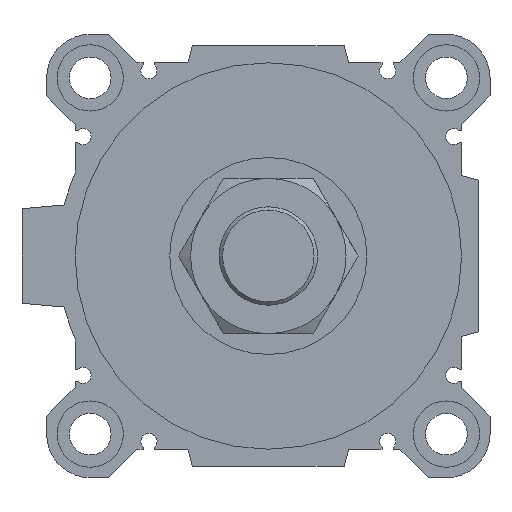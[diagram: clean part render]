
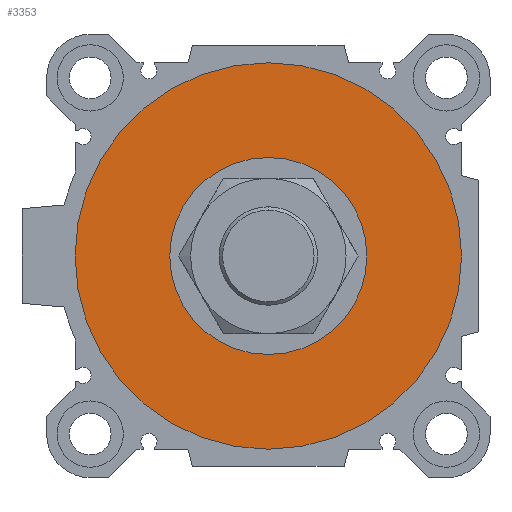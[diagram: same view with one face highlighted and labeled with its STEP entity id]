
A CAD part, left-side view. The second image highlights one B-rep face of the part: STEP entity #3353.
In plain terms, the highlighted planar face has unit normal (-1, 0, 0).
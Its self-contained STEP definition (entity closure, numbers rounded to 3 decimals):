
#9 = ORIENTED_EDGE ( 'NONE', *, *, #5377, .F. ) ;
#19 = DIRECTION ( 'NONE',  ( 1., 0., 0. ) ) ;
#44 = EDGE_LOOP ( 'NONE', ( #9, #5976 ) ) ;
#75 = EDGE_CURVE ( 'NONE', #4464, #2270, #4805, .T. ) ;
#154 = FACE_OUTER_BOUND ( 'NONE', #44, .T. ) ;
#521 = VERTEX_POINT ( 'NONE', #5569 ) ;
#752 = AXIS2_PLACEMENT_3D ( 'NONE', #5325, #19, #7876 ) ;
#1013 = ORIENTED_EDGE ( 'NONE', *, *, #4688, .T. ) ;
#1120 = AXIS2_PLACEMENT_3D ( 'NONE', #3017, #6650, #1311 ) ;
#1272 = DIRECTION ( 'NONE',  ( 1., 0., 0. ) ) ;
#1311 = DIRECTION ( 'NONE',  ( 0., 0., -1. ) ) ;
#1549 = EDGE_CURVE ( 'NONE', #521, #3737, #4176, .T. ) ;
#1936 = DIRECTION ( 'NONE',  ( 0., 0., -1. ) ) ;
#1989 = DIRECTION ( 'NONE',  ( 0., 1., 0. ) ) ;
#2222 = AXIS2_PLACEMENT_3D ( 'NONE', #5892, #6010, #7102 ) ;
#2270 = VERTEX_POINT ( 'NONE', #7211 ) ;
#2352 = CIRCLE ( 'NONE', #2222, 51. ) ;
#3017 = CARTESIAN_POINT ( 'NONE',  ( 6.5, 0., 0. ) ) ;
#3353 = ADVANCED_FACE ( 'NONE', ( #154, #6241 ), #4415, .F. ) ;
#3737 = VERTEX_POINT ( 'NONE', #5684 ) ;
#4176 = CIRCLE ( 'NONE', #752, 26. ) ;
#4248 = AXIS2_PLACEMENT_3D ( 'NONE', #6843, #5515, #1936 ) ;
#4250 = CARTESIAN_POINT ( 'NONE',  ( 6.5, 0., 0. ) ) ;
#4384 = ORIENTED_EDGE ( 'NONE', *, *, #1549, .T. ) ;
#4415 = PLANE ( 'NONE',  #7059 ) ;
#4464 = VERTEX_POINT ( 'NONE', #7044 ) ;
#4688 = EDGE_CURVE ( 'NONE', #3737, #521, #6418, .T. ) ;
#4805 = CIRCLE ( 'NONE', #1120, 51. ) ;
#5325 = CARTESIAN_POINT ( 'NONE',  ( 6.5, 0., 0. ) ) ;
#5377 = EDGE_CURVE ( 'NONE', #2270, #4464, #2352, .T. ) ;
#5515 = DIRECTION ( 'NONE',  ( 1., 0., 0. ) ) ;
#5569 = CARTESIAN_POINT ( 'NONE',  ( 6.5, 0., 26. ) ) ;
#5684 = CARTESIAN_POINT ( 'NONE',  ( 6.5, 0., -26. ) ) ;
#5892 = CARTESIAN_POINT ( 'NONE',  ( 6.5, 0., 0. ) ) ;
#5958 = EDGE_LOOP ( 'NONE', ( #4384, #1013 ) ) ;
#5976 = ORIENTED_EDGE ( 'NONE', *, *, #75, .F. ) ;
#6010 = DIRECTION ( 'NONE',  ( 1., 0., 0. ) ) ;
#6241 = FACE_BOUND ( 'NONE', #5958, .T. ) ;
#6418 = CIRCLE ( 'NONE', #4248, 26. ) ;
#6650 = DIRECTION ( 'NONE',  ( 1., 0., 0. ) ) ;
#6843 = CARTESIAN_POINT ( 'NONE',  ( 6.5, 0., 0. ) ) ;
#7044 = CARTESIAN_POINT ( 'NONE',  ( 6.5, 0., -51. ) ) ;
#7059 = AXIS2_PLACEMENT_3D ( 'NONE', #4250, #1272, #1989 ) ;
#7102 = DIRECTION ( 'NONE',  ( 0., 0., -1. ) ) ;
#7211 = CARTESIAN_POINT ( 'NONE',  ( 6.5, 0., 51. ) ) ;
#7876 = DIRECTION ( 'NONE',  ( 0., 0., -1. ) ) ;
